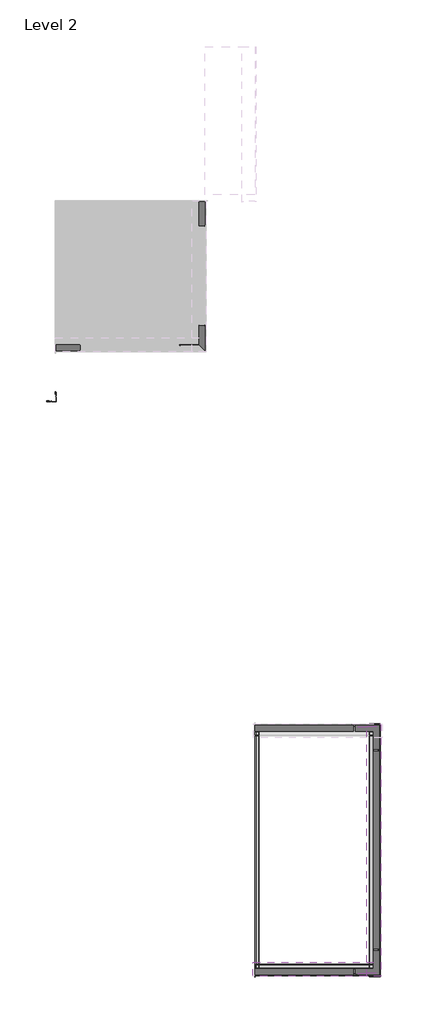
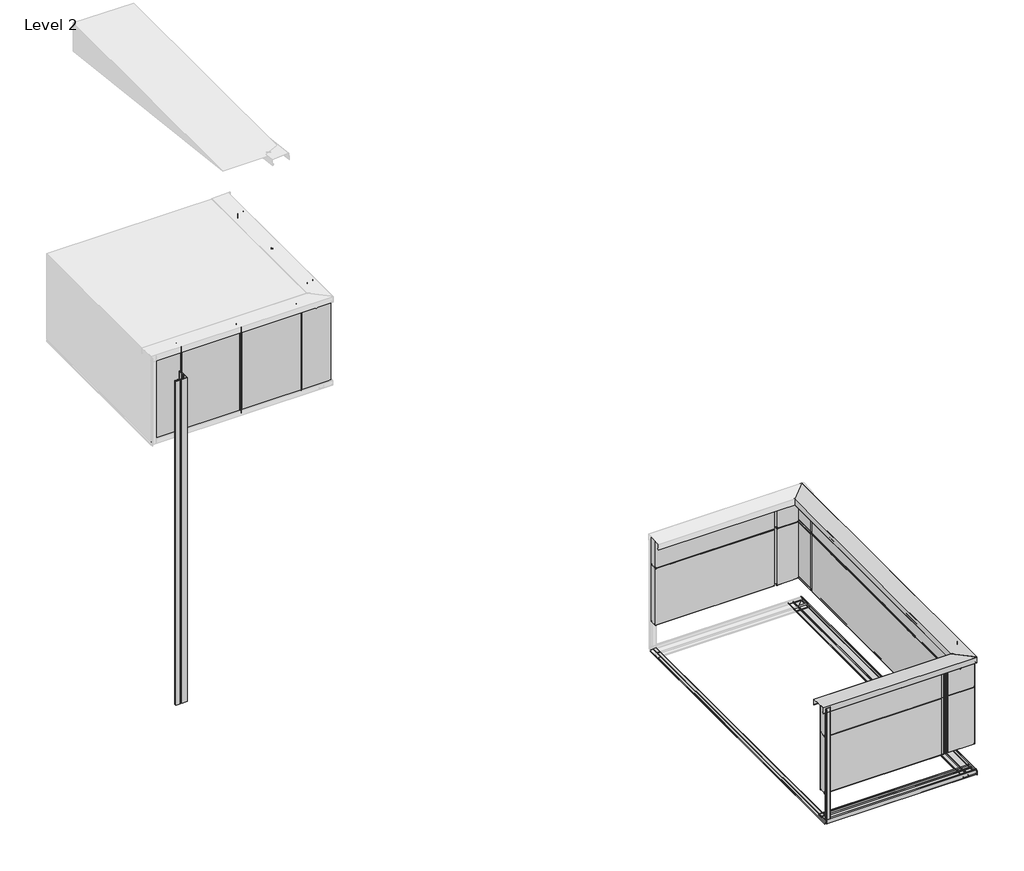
# One storey, part 1 of 2: 26 plates, 8 members, 7 beams.
"""IFC4 building model written with IfcOpenShell, lengths in millimetres."""

from ifc_helpers import new_model, si_unit, frame, origin, place, context, project, spatial, polyline, outline, extrude, faceted_brep, transform, mapped, element, save
from components import corner_with_flashing_b1a8f263, internal_corner_5e0b01c1, rectangular_mullion_bb89daf4, rectangular_mullion_bab87d59, plate_120_ral9006_ral9002_e1d061e9, plate_120_ral9006_ral9002_46c4dbfd, plate_120_ral9006_ral9002_44e4d69d, plate_120_ral9006_ral9002_99097967, plate_120_ral9006_ral9002_da1a0bd5, plate_120_ral9006_ral9002_3de5da87, plate_120_ral9006_ral9002_1c424da0, plate_120_ral9006_ral9002_272a4879, plate_120_ral9006_ral9002_0a070416, plate_120_ral9006_ral9002_82f7680e, plate_120_ral9006_ral9002_b7fea2f2, plate_120_ral9006_ral9002_61fda5af, plate_120_ral9006_ral9002_7097234f, plate_120_ral9006_ral9002_db5e3afc, plate_120_ral9006_ral9002_f0a6c20e, plate_120_ral9006_ral9002_2f89b07f, plate_120_ral9006_ral9002_a23da970, tr_empty_empty_7661b975, tr_empty_empty_d66e5eec, tr_empty_empty_b148ba64

model = new_model("IFC4")

# Units and contexts
model_context = context("Model", 3, world=origin())
ifc_project = project(units=[si_unit("LENGTHUNIT", "METRE", prefix="MILLI")], contexts=[model_context])

# Site, building, storey
site = spatial("IfcSite", under=ifc_project)
building = spatial("IfcBuilding", under=site)
storey = spatial("IfcBuildingStorey", under=building, Name="Level 2", Elevation=4000.0)

# Beams
placement = place(None, origin())
corner_with_flashing_shape = corner_with_flashing_b1a8f263(model_context)
element("IfcBeam", 1, ObjectType="TE-V-04_01 External corner with flashing i_BEAM : Corner with flashing", at=placement, inside=storey, context=model_context, shape_type="MappedRepresentation", body=[
    mapped(corner_with_flashing_shape, transform((-3994.1155057, -30.3930876, 4640.0), x_axis=(0.0, 0.0, 1.0), y_axis=(1.0, 0.0, 0.0), z_axis=(0.0, 1.0, 0.0))),
])
element("IfcBeam", 2, ObjectType="TE-H-05_02_Internal corner i_BEAM : Internal corner", at=placement, inside=storey, context=model_context, shape_type="SweptSolid", body=[
    extrude(outline(polyline([(3631.5530174, 83.0839105), (3631.3459621, 83.8566511), (3648.3462567, 88.4118663), (3648.0356738, 89.5709773), (3629.4, 84.5775636), (3629.4, 9.4844943), (3599.4, 9.4844943), (3599.4, 8.2844943), (3619.0, 8.2844943), (3619.0, 7.4844943), (3598.6, 7.4844943), (3598.6, 10.2844943), (3628.6, 10.2844943), (3628.6, 85.1914251), (3648.6013592, 90.5507732), (3649.3260526, 87.8461809), (3631.5530174, 83.0839105)])), frame((0.0, -11530.3930873, 0.0), z_axis=(0.0, 1.0, 0.0), x_axis=(0.0, 0.0, 1.0)), (0.0, 0.0, 1.0), 5020.5999994),
    extrude(outline(polyline([(3647.6, 86.346214), (3633.6146402, 82.5988482), (3633.407585, 83.3715888), (3648.4, 87.3887943), (3648.4, 36.8675042), (3647.6, 36.8675042), (3647.6, 86.346214)])), frame((0.0, -11530.3930873, 0.0), z_axis=(0.0, 1.0, 0.0), x_axis=(0.0, 0.0, 1.0)), (0.0, 0.0, 1.0), 5020.5999994),
])
internal_corner_shape = internal_corner_5e0b01c1(model_context)
element("IfcBeam", 3, ObjectType="TE-H-05_02_Internal corner i_BEAM : Internal corner", at=placement, inside=storey, context=model_context, shape_type="MappedRepresentation", body=[
    mapped(internal_corner_shape, transform((5.8844943, -11530.3930879, 4650.0), x_axis=(0.0, 0.0, 1.0), y_axis=(1.0, 0.0, 0.0), z_axis=(0.0, 1.0, 0.0))),
])
element("IfcBeam", 4, ObjectType="TE-H-03_02_Top parapet_BEAM : Top parapet", at=placement, inside=storey, context=model_context, shape_type="Brep", body=[
    faceted_brep([(2529.2844943, -11535.9982611, 5592.9605122), (2529.2844943, -11552.9930879, 5575.9656854), (2529.2844943, -11552.9930879, 5674.5784879), (2529.2844943, -11277.7930879, 5660.1558671), (2529.2844943, -11277.7930879, 5561.5011383), (2529.2844943, -11294.7879147, 5578.4959652), (2529.2844943, -11295.3536001, 5577.9302797), (2529.2844943, -11276.9930879, 5559.5697675), (2529.2844943, -11276.9930879, 5660.9150387), (2529.2844943, -11553.7930879, 5675.4215121), (2529.2844943, -11553.7930879, 5574.0343146), (2529.2844943, -11535.4325756, 5592.3948268), (-27.9077464, -11535.9982611, 5592.9605122), (-27.9077464, -11535.4325756, 5592.3948268), (-27.9077464, -11553.7930879, 5574.0343146), (-27.9077464, -11553.7930879, 5675.4215121), (-27.9077464, -11276.9930879, 5660.9150387), (-27.9077464, -11276.9930879, 5559.5697675), (-27.9077464, -11295.3536001, 5577.9302797), (-27.9077464, -11294.7879147, 5578.4959652), (-27.9077464, -11277.7930879, 5561.5011383), (-27.9077464, -11277.7930879, 5660.1558671), (-27.9077464, -11552.9930879, 5674.5784879), (-27.9077464, -11552.9930879, 5575.9656854)], [[[0, 1, 2, 3, 4, 5, 6, 7, 8, 9, 10, 11]], [[12, 13, 14, 15, 16, 17, 18, 19, 20, 21, 22, 23]], [[1, 0, 12, 23]], [[2, 1, 23, 22]], [[3, 2, 22, 21]], [[4, 3, 21, 20]], [[5, 4, 20, 19]], [[6, 5, 19, 18]], [[7, 6, 18, 17]], [[8, 7, 17, 16]], [[9, 8, 16, 15]], [[10, 9, 15, 14]], [[11, 10, 14, 13]], [[0, 11, 13, 12]]]),
    faceted_brep([(-27.9077464, -11535.9982611, 5592.9605122), (-27.9077464, -11535.4325756, 5592.3948268), (-27.9077464, -11553.7930879, 5574.0343146), (-27.9077464, -11553.7930879, 5675.4215121), (-27.9077464, -11276.9930879, 5660.9150387), (-27.9077464, -11276.9930879, 5559.5697675), (-27.9077464, -11295.3536001, 5577.9302797), (-27.9077464, -11294.7879147, 5578.4959652), (-27.9077464, -11277.7930879, 5561.5011383), (-27.9077464, -11277.7930879, 5660.1558671), (-27.9077464, -11552.9930879, 5674.5784879), (-27.9077464, -11552.9930879, 5575.9656854), (2510.9239821, -11535.4325756, 5592.3948268), (2511.4896675, -11535.9982611, 5592.9605122), (2529.2844943, -11553.7930879, 5574.0343146), (2529.2844943, -11553.7930879, 5675.4215121), (2252.4844943, -11276.9930879, 5660.9150387), (2252.4844943, -11276.9930879, 5559.5697675), (2270.8450066, -11295.3536001, 5577.9302797), (2270.2793212, -11294.7879147, 5578.4959652), (2253.2844943, -11277.7930879, 5561.5011383), (2253.2844943, -11277.7930879, 5660.1558671), (2528.4844943, -11552.9930879, 5674.5784879), (2528.4844943, -11552.9930879, 5575.9656854)], [[[0, 1, 2, 3, 4, 5, 6, 7, 8, 9, 10, 11]], [[12, 1, 0, 13]], [[14, 2, 1, 12]], [[15, 3, 2, 14]], [[16, 4, 3, 15]], [[17, 5, 4, 16]], [[18, 6, 5, 17]], [[19, 7, 6, 18]], [[20, 8, 7, 19]], [[21, 9, 8, 20]], [[22, 10, 9, 21]], [[23, 11, 10, 22]], [[13, 0, 11, 23]], [[13, 23, 22, 21, 20, 19, 18, 17, 16, 15, 14, 12]]]),
])
element("IfcBeam", 5, ObjectType="TE-H-03_02_Top parapet_BEAM : Top parapet", at=placement, inside=storey, context=model_context, shape_type="Brep", body=[
    faceted_brep([(2511.4896675, -6501.107759, 5592.9605122), (2528.4844943, -6501.107759, 5575.9656854), (2528.4844943, -6501.107759, 5674.5784879), (2253.2844943, -6501.107759, 5660.1558671), (2253.2844943, -6501.107759, 5561.5011383), (2270.2793212, -6501.107759, 5578.4959652), (2270.8450066, -6501.107759, 5577.9302797), (2252.4844943, -6501.107759, 5559.5697675), (2252.4844943, -6501.107759, 5660.9150387), (2529.2844943, -6501.107759, 5675.4215121), (2529.2844943, -6501.107759, 5574.0343146), (2510.9239821, -6501.107759, 5592.3948268), (2511.4896675, -11553.3930879, 5592.9605122), (2510.9239821, -11553.3930879, 5592.3948268), (2529.2844943, -11553.3930879, 5574.0343146), (2529.2844943, -11553.3930879, 5675.4215121), (2252.4844943, -11553.3930879, 5660.9150387), (2252.4844943, -11553.3930879, 5559.5697675), (2270.8450066, -11553.3930879, 5577.9302797), (2270.2793212, -11553.3930879, 5578.4959652), (2253.2844943, -11553.3930879, 5561.5011383), (2253.2844943, -11553.3930879, 5660.1558671), (2528.4844943, -11553.3930879, 5674.5784879), (2528.4844943, -11553.3930879, 5575.9656854)], [[[0, 1, 2, 3, 4, 5, 6, 7, 8, 9, 10, 11]], [[12, 13, 14, 15, 16, 17, 18, 19, 20, 21, 22, 23]], [[1, 0, 12, 23]], [[2, 1, 23, 22]], [[3, 2, 22, 21]], [[4, 3, 21, 20]], [[5, 4, 20, 19]], [[6, 5, 19, 18]], [[7, 6, 18, 17]], [[8, 7, 17, 16]], [[9, 8, 16, 15]], [[10, 9, 15, 14]], [[11, 10, 14, 13]], [[0, 11, 13, 12]]]),
    faceted_brep([(2511.4896675, -6501.107759, 5592.9605122), (2528.4844943, -6501.107759, 5575.9656854), (2528.4844943, -6501.107759, 5674.5784879), (2253.2844943, -6501.107759, 5660.1558671), (2253.2844943, -6501.107759, 5561.5011383), (2270.2793212, -6501.107759, 5578.4959652), (2270.8450066, -6501.107759, 5577.9302797), (2252.4844943, -6501.107759, 5559.5697675), (2252.4844943, -6501.107759, 5660.9150387), (2529.2844943, -6501.107759, 5675.4215121), (2529.2844943, -6501.107759, 5574.0343146), (2510.9239821, -6501.107759, 5592.3948268), (2511.4896675, -11535.9982611, 5592.9605122), (2528.4844943, -11552.9930879, 5575.9656854), (2528.4844943, -11552.9930879, 5674.5784879), (2253.2844943, -11277.7930879, 5660.1558671), (2253.2844943, -11277.7930879, 5561.5011383), (2270.2793212, -11294.7879147, 5578.4959652), (2270.8450066, -11295.3536001, 5577.9302797), (2252.4844943, -11276.9930879, 5559.5697675), (2252.4844943, -11276.9930879, 5660.9150387), (2528.8844943, -11553.3930879, 5675.4005489), (2529.2844943, -11553.3930879, 5675.4215121), (2529.2844943, -11553.3930879, 5574.0343146), (2528.8844943, -11553.3930879, 5574.4343146), (2510.9239821, -11535.4325756, 5592.3948268)], [[[0, 1, 2, 3, 4, 5, 6, 7, 8, 9, 10, 11]], [[1, 0, 12, 13]], [[2, 1, 13, 14]], [[3, 2, 14, 15]], [[4, 3, 15, 16]], [[5, 4, 16, 17]], [[6, 5, 17, 18]], [[7, 6, 18, 19]], [[8, 7, 19, 20]], [[9, 8, 20, 21, 22]], [[10, 9, 22, 23]], [[11, 10, 23, 24, 25]], [[0, 11, 25, 12]], [[24, 23, 22, 21]], [[24, 21, 20, 19, 18, 17, 16, 15, 14, 13, 12, 25]]]),
    faceted_brep([(2511.4896675, -6524.789012, 5592.9605122), (2511.4896675, -11535.9982611, 5592.9605122), (2528.4844943, -11552.9930879, 5575.9656854), (2528.4844943, -6507.7941851, 5575.9656854), (2510.9239821, -6525.3546974, 5592.3948268), (2510.9239821, -11535.4325756, 5592.3948268), (2528.4844943, -11552.9930879, 5674.5784879), (2528.4844943, -6507.7941851, 5674.5784879), (2253.2844943, -11277.7930879, 5660.1558671), (2253.2844943, -6782.9941851, 5660.1558671), (2253.2844943, -11277.7930879, 5561.5011383), (2253.2844943, -6782.9941851, 5561.5011383), (2270.2793212, -11294.7879147, 5578.4959652), (2270.2793212, -6765.9993583, 5578.4959652), (2270.8450066, -11295.3536001, 5577.9302797), (2270.8450066, -6765.4336729, 5577.9302797), (2252.4844943, -11276.9930879, 5559.5697675), (2252.4844943, -6783.7941851, 5559.5697675), (2252.4844943, -11276.9930879, 5660.9150387), (2252.4844943, -6783.7941851, 5660.9150387), (2528.8844943, -11553.3930879, 5675.4005489), (2529.2844943, -11553.3930879, 5675.4215121), (2529.2844943, -6506.9941851, 5675.4215121), (2528.8844943, -11553.3930879, 5574.4343146), (2529.2844943, -11553.3930879, 5574.0343146), (2529.2844943, -6506.9941851, 5574.0343146)], [[[0, 1, 2, 3]], [[4, 5, 1, 0]], [[3, 2, 6, 7]], [[7, 6, 8, 9]], [[9, 8, 10, 11]], [[11, 10, 12, 13]], [[13, 12, 14, 15]], [[15, 14, 16, 17]], [[17, 16, 18, 19]], [[19, 18, 20, 21, 22]], [[23, 24, 21, 20]], [[22, 21, 24, 25]], [[25, 24, 23, 5, 4]], [[23, 20, 18, 16, 14, 12, 10, 8, 6, 2, 1, 5]], [[0, 3, 7, 9, 11, 13, 15, 17, 19, 22, 25, 4]]]),
])
element("IfcBeam", 6, ObjectType="TE-H-12_2_ Soffit i_BEAM : soffit", at=placement, inside=storey, context=model_context, shape_type="Brep", body=[
    faceted_brep([(26.5947834, -11548.3574148, 3687.5217497), (26.5947834, -11531.3571203, 3692.0769649), (26.5947834, -11531.6677031, 3693.2360759), (26.5947834, -11550.3033769, 3688.2426622), (26.5947834, -11550.3033769, 3614.5152784), (26.5947834, -11533.3085501, 3631.5101052), (26.5947834, -11532.7428647, 3630.9444198), (26.5947834, -11551.1033769, 3612.5839075), (26.5947834, -11551.1033769, 3688.8565238), (26.5947834, -11531.1020177, 3694.2158718), (26.5947834, -11530.3773244, 3691.5112795), (26.5947834, -11548.1503596, 3686.7490091), (2526.5947834, -11548.3574148, 3687.5217497), (2526.5947834, -11548.1503596, 3686.7490091), (2526.5947834, -11530.3773244, 3691.5112795), (2526.5947834, -11531.1020177, 3694.2158718), (2526.5947834, -11551.1033769, 3688.8565238), (2526.5947834, -11551.1033769, 3612.5839075), (2526.5947834, -11532.7428647, 3630.9444198), (2526.5947834, -11533.3085501, 3631.5101052), (2526.5947834, -11550.3033769, 3614.5152784), (2526.5947834, -11550.3033769, 3688.2426622), (2526.5947834, -11531.6677031, 3693.2360759), (2526.5947834, -11531.3571203, 3692.0769649)], [[[0, 1, 2, 3, 4, 5, 6, 7, 8, 9, 10, 11]], [[12, 13, 14, 15, 16, 17, 18, 19, 20, 21, 22, 23]], [[1, 0, 12, 23]], [[2, 1, 23, 22]], [[3, 2, 22, 21]], [[4, 3, 21, 20]], [[5, 4, 20, 19]], [[6, 5, 19, 18]], [[7, 6, 18, 17]], [[8, 7, 17, 16]], [[9, 8, 16, 15]], [[10, 9, 15, 14]], [[11, 10, 14, 13]], [[0, 11, 13, 12]]]),
    faceted_brep([(26.5947834, -11548.404939, 3618.4538591), (26.5947834, -11534.1456461, 3632.713152), (26.5947834, -11404.3799606, 3632.713152), (26.5947834, -11404.3799606, 3657.713152), (26.5947834, -11401.5799606, 3657.713152), (26.5947834, -11401.5799606, 3629.713152), (26.5947834, -11327.2868914, 3629.713152), (26.5947834, -11322.2934777, 3648.3488258), (26.5947834, -11323.4525887, 3648.6594087), (26.5947834, -11328.0078039, 3631.6591141), (26.5947834, -11328.7805445, 3631.8661694), (26.5947834, -11324.0182741, 3649.6392046), (26.5947834, -11321.3136818, 3648.9145113), (26.5947834, -11326.6730298, 3628.913152), (26.5947834, -11402.3799606, 3628.913152), (26.5947834, -11402.3799606, 3656.913152), (26.5947834, -11403.5799606, 3656.913152), (26.5947834, -11403.5799606, 3631.913152), (26.5947834, -11533.8142752, 3631.913152), (26.5947834, -11547.8392535, 3617.8881737), (2526.5947834, -11548.404939, 3618.4538591), (2526.5947834, -11547.8392535, 3617.8881737), (2526.5947834, -11533.8142752, 3631.913152), (2526.5947834, -11403.5799606, 3631.913152), (2526.5947834, -11403.5799606, 3656.913152), (2526.5947834, -11402.3799606, 3656.913152), (2526.5947834, -11402.3799606, 3628.913152), (2526.5947834, -11326.6730298, 3628.913152), (2526.5947834, -11321.3136818, 3648.9145113), (2526.5947834, -11324.0182741, 3649.6392046), (2526.5947834, -11328.7805445, 3631.8661694), (2526.5947834, -11328.0078039, 3631.6591141), (2526.5947834, -11323.4525887, 3648.6594087), (2526.5947834, -11322.2934777, 3648.3488258), (2526.5947834, -11327.2868914, 3629.713152), (2526.5947834, -11401.5799606, 3629.713152), (2526.5947834, -11401.5799606, 3657.713152), (2526.5947834, -11404.3799606, 3657.713152), (2526.5947834, -11404.3799606, 3632.713152), (2526.5947834, -11534.1456461, 3632.713152)], [[[0, 1, 2, 3, 4, 5, 6, 7, 8, 9, 10, 11, 12, 13, 14, 15, 16, 17, 18, 19]], [[20, 21, 22, 23, 24, 25, 26, 27, 28, 29, 30, 31, 32, 33, 34, 35, 36, 37, 38, 39]], [[1, 0, 20, 39]], [[2, 1, 39, 38]], [[3, 2, 38, 37]], [[4, 3, 37, 36]], [[5, 4, 36, 35]], [[6, 5, 35, 34]], [[7, 6, 34, 33]], [[8, 7, 33, 32]], [[9, 8, 32, 31]], [[10, 9, 31, 30]], [[11, 10, 30, 29]], [[12, 11, 29, 28]], [[13, 12, 28, 27]], [[14, 13, 27, 26]], [[15, 14, 26, 25]], [[16, 15, 25, 24]], [[17, 16, 24, 23]], [[18, 17, 23, 22]], [[19, 18, 22, 21]], [[0, 19, 21, 20]]]),
    faceted_brep([(26.5947834, -11548.3574148, 3687.5217497), (26.5947834, -11531.3571203, 3692.0769649), (26.5947834, -11531.6677031, 3693.2360759), (26.5947834, -11550.3033769, 3688.2426622), (26.5947834, -11550.3033769, 3614.5152784), (26.5947834, -11533.3085501, 3631.5101052), (26.5947834, -11532.7428647, 3630.9444198), (26.5947834, -11551.1033769, 3612.5839075), (26.5947834, -11551.1033769, 3688.8565238), (26.5947834, -11531.1020177, 3694.2158718), (26.5947834, -11530.3773244, 3691.5112795), (26.5947834, -11548.1503596, 3686.7490091), (2523.8488213, -11548.3574148, 3687.5217497), (2506.8485268, -11531.3571203, 3692.0769649), (2507.1591096, -11531.6677031, 3693.2360759), (2525.7947834, -11550.3033769, 3688.2426622), (2525.7947834, -11550.3033769, 3614.5152784), (2508.7999566, -11533.3085501, 3631.5101052), (2508.2342712, -11532.7428647, 3630.9444198), (2526.5947834, -11551.1033769, 3612.5839075), (2526.5947834, -11551.1033769, 3688.8565238), (2506.5934242, -11531.1020177, 3694.2158718), (2505.8687309, -11530.3773244, 3691.5112795), (2523.6417661, -11548.1503596, 3686.7490091)], [[[0, 1, 2, 3, 4, 5, 6, 7, 8, 9, 10, 11]], [[1, 0, 12, 13]], [[2, 1, 13, 14]], [[3, 2, 14, 15]], [[4, 3, 15, 16]], [[5, 4, 16, 17]], [[6, 5, 17, 18]], [[7, 6, 18, 19]], [[8, 7, 19, 20]], [[9, 8, 20, 21]], [[10, 9, 21, 22]], [[11, 10, 22, 23]], [[0, 11, 23, 12]], [[13, 12, 23, 22, 21, 20, 19, 18, 17, 16, 15, 14]]]),
    faceted_brep([(26.5947834, -11548.404939, 3618.4538591), (26.5947834, -11534.1456461, 3632.713152), (26.5947834, -11404.3799606, 3632.713152), (26.5947834, -11404.3799606, 3657.713152), (26.5947834, -11401.5799606, 3657.713152), (26.5947834, -11401.5799606, 3629.713152), (26.5947834, -11327.2868914, 3629.713152), (26.5947834, -11322.2934777, 3648.3488258), (26.5947834, -11323.4525887, 3648.6594087), (26.5947834, -11328.0078039, 3631.6591141), (26.5947834, -11328.7805445, 3631.8661694), (26.5947834, -11324.0182741, 3649.6392046), (26.5947834, -11321.3136818, 3648.9145113), (26.5947834, -11326.6730298, 3628.913152), (26.5947834, -11402.3799606, 3628.913152), (26.5947834, -11402.3799606, 3656.913152), (26.5947834, -11403.5799606, 3656.913152), (26.5947834, -11403.5799606, 3631.913152), (26.5947834, -11533.8142752, 3631.913152), (26.5947834, -11547.8392535, 3617.8881737), (2523.8963454, -11548.404939, 3618.4538591), (2509.6370525, -11534.1456461, 3632.713152), (2379.8713671, -11404.3799606, 3632.713152), (2379.8713671, -11404.3799606, 3657.713152), (2377.0713671, -11401.5799606, 3657.713152), (2377.0713671, -11401.5799606, 3629.713152), (2302.7782979, -11327.2868914, 3629.713152), (2297.7848842, -11322.2934777, 3648.3488258), (2298.9439951, -11323.4525887, 3648.6594087), (2303.4992103, -11328.0078039, 3631.6591141), (2304.271951, -11328.7805445, 3631.8661694), (2299.5096806, -11324.0182741, 3649.6392046), (2296.8050883, -11321.3136818, 3648.9145113), (2302.1644363, -11326.6730298, 3628.913152), (2377.8713671, -11402.3799606, 3628.913152), (2377.8713671, -11402.3799606, 3656.913152), (2379.0713671, -11403.5799606, 3656.913152), (2379.0713671, -11403.5799606, 3631.913152), (2509.3056817, -11533.8142752, 3631.913152), (2523.33066, -11547.8392535, 3617.8881737)], [[[0, 1, 2, 3, 4, 5, 6, 7, 8, 9, 10, 11, 12, 13, 14, 15, 16, 17, 18, 19]], [[1, 0, 20, 21]], [[2, 1, 21, 22]], [[3, 2, 22, 23]], [[4, 3, 23, 24]], [[5, 4, 24, 25]], [[6, 5, 25, 26]], [[7, 6, 26, 27]], [[8, 7, 27, 28]], [[9, 8, 28, 29]], [[10, 9, 29, 30]], [[11, 10, 30, 31]], [[12, 11, 31, 32]], [[13, 12, 32, 33]], [[14, 13, 33, 34]], [[15, 14, 34, 35]], [[16, 15, 35, 36]], [[17, 16, 36, 37]], [[18, 17, 37, 38]], [[19, 18, 38, 39]], [[0, 19, 39, 20]], [[21, 20, 39, 38, 37, 36, 35, 34, 33, 32, 31, 30, 29, 28, 27, 26, 25, 24, 23, 22]]]),
])
element("IfcBeam", 7, ObjectType="TE-H-12_2_ Soffit i_BEAM : soffit", at=placement, inside=storey, context=model_context, shape_type="Brep", body=[
    faceted_brep([(2523.8488213, -11571.813666, 3687.5217497), (2506.8485268, -11571.813666, 3692.0769649), (2507.1591096, -11571.813666, 3693.2360759), (2525.7947834, -11571.813666, 3688.2426622), (2525.7947834, -11571.813666, 3614.5152784), (2508.7999566, -11571.813666, 3631.5101052), (2508.2342712, -11571.813666, 3630.9444198), (2526.5947834, -11571.813666, 3612.5839075), (2526.5947834, -11571.813666, 3688.8565238), (2506.5934242, -11571.813666, 3694.2158718), (2505.8687309, -11571.813666, 3691.5112795), (2523.6417661, -11571.813666, 3686.7490091), (2523.8488213, -6506.9930879, 3687.5217497), (2523.6417661, -6506.9930879, 3686.7490091), (2505.8687309, -6506.9930879, 3691.5112795), (2506.5934242, -6506.9930879, 3694.2158718), (2526.5947834, -6506.9930879, 3688.8565238), (2526.5947834, -6506.9930879, 3612.5839075), (2508.2342712, -6506.9930879, 3630.9444198), (2508.7999566, -6506.9930879, 3631.5101052), (2525.7947834, -6506.9930879, 3614.5152784), (2525.7947834, -6506.9930879, 3688.2426622), (2507.1591096, -6506.9930879, 3693.2360759), (2506.8485268, -6506.9930879, 3692.0769649)], [[[0, 1, 2, 3, 4, 5, 6, 7, 8, 9, 10, 11]], [[12, 13, 14, 15, 16, 17, 18, 19, 20, 21, 22, 23]], [[1, 0, 12, 23]], [[2, 1, 23, 22]], [[3, 2, 22, 21]], [[4, 3, 21, 20]], [[5, 4, 20, 19]], [[6, 5, 19, 18]], [[7, 6, 18, 17]], [[8, 7, 17, 16]], [[9, 8, 16, 15]], [[10, 9, 15, 14]], [[11, 10, 14, 13]], [[0, 11, 13, 12]]]),
    faceted_brep([(2523.8963454, -11571.813666, 3618.4538591), (2509.6370525, -11571.813666, 3632.713152), (2379.8713671, -11571.813666, 3632.713152), (2379.8713671, -11571.813666, 3657.713152), (2377.0713671, -11571.813666, 3657.713152), (2377.0713671, -11571.813666, 3629.713152), (2302.7782979, -11571.813666, 3629.713152), (2297.7848842, -11571.813666, 3648.3488258), (2298.9439951, -11571.813666, 3648.6594087), (2303.4992103, -11571.813666, 3631.6591141), (2304.271951, -11571.813666, 3631.8661694), (2299.5096806, -11571.813666, 3649.6392046), (2296.8050883, -11571.813666, 3648.9145113), (2302.1644363, -11571.813666, 3628.913152), (2377.8713671, -11571.813666, 3628.913152), (2377.8713671, -11571.813666, 3656.913152), (2379.0713671, -11571.813666, 3656.913152), (2379.0713671, -11571.813666, 3631.913152), (2509.3056817, -11571.813666, 3631.913152), (2523.33066, -11571.813666, 3617.8881737), (2523.8963454, -6506.9930879, 3618.4538591), (2523.33066, -6506.9930879, 3617.8881737), (2509.3056817, -6506.9930879, 3631.913152), (2379.0713671, -6506.9930879, 3631.913152), (2379.0713671, -6506.9930879, 3656.913152), (2377.8713671, -6506.9930879, 3656.913152), (2377.8713671, -6506.9930879, 3628.913152), (2302.1644363, -6506.9930879, 3628.913152), (2296.8050883, -6506.9930879, 3648.9145113), (2299.5096806, -6506.9930879, 3649.6392046), (2304.271951, -6506.9930879, 3631.8661694), (2303.4992103, -6506.9930879, 3631.6591141), (2298.9439951, -6506.9930879, 3648.6594087), (2297.7848842, -6506.9930879, 3648.3488258), (2302.7782979, -6506.9930879, 3629.713152), (2377.0713671, -6506.9930879, 3629.713152), (2377.0713671, -6506.9930879, 3657.713152), (2379.8713671, -6506.9930879, 3657.713152), (2379.8713671, -6506.9930879, 3632.713152), (2509.6370525, -6506.9930879, 3632.713152)], [[[0, 1, 2, 3, 4, 5, 6, 7, 8, 9, 10, 11, 12, 13, 14, 15, 16, 17, 18, 19]], [[20, 21, 22, 23, 24, 25, 26, 27, 28, 29, 30, 31, 32, 33, 34, 35, 36, 37, 38, 39]], [[1, 0, 20, 39]], [[2, 1, 39, 38]], [[3, 2, 38, 37]], [[4, 3, 37, 36]], [[5, 4, 36, 35]], [[6, 5, 35, 34]], [[7, 6, 34, 33]], [[8, 7, 33, 32]], [[9, 8, 32, 31]], [[10, 9, 31, 30]], [[11, 10, 30, 29]], [[12, 11, 29, 28]], [[13, 12, 28, 27]], [[14, 13, 27, 26]], [[15, 14, 26, 25]], [[16, 15, 25, 24]], [[17, 16, 24, 23]], [[18, 17, 23, 22]], [[19, 18, 22, 21]], [[0, 19, 21, 20]]]),
    faceted_brep([(2523.8488213, -6506.9930879, 3687.5217497), (2523.6417661, -6506.9930879, 3686.7490091), (2505.8687309, -6506.9930879, 3691.5112795), (2506.5934242, -6506.9930879, 3694.2158718), (2526.5947834, -6506.9930879, 3688.8565238), (2526.5947834, -6506.9930879, 3612.5839075), (2508.2342712, -6506.9930879, 3630.9444198), (2508.7999566, -6506.9930879, 3631.5101052), (2525.7947834, -6506.9930879, 3614.5152784), (2525.7947834, -6506.9930879, 3688.2426622), (2507.1591096, -6506.9930879, 3693.2360759), (2506.8485268, -6506.9930879, 3692.0769649), (2523.6417661, -11548.1503596, 3686.7490091), (2523.8488213, -11548.3574148, 3687.5217497), (2505.8687309, -11530.3773244, 3691.5112795), (2506.5934242, -11531.1020177, 3694.2158718), (2526.5947834, -11551.1033769, 3688.8565238), (2526.5947834, -11551.1033769, 3612.5839075), (2508.2342712, -11532.7428647, 3630.9444198), (2508.7999566, -11533.3085501, 3631.5101052), (2525.7947834, -11550.3033769, 3614.5152784), (2525.7947834, -11550.3033769, 3688.2426622), (2507.1591096, -11531.6677031, 3693.2360759), (2506.8485268, -11531.3571203, 3692.0769649)], [[[0, 1, 2, 3, 4, 5, 6, 7, 8, 9, 10, 11]], [[12, 1, 0, 13]], [[14, 2, 1, 12]], [[15, 3, 2, 14]], [[16, 4, 3, 15]], [[17, 5, 4, 16]], [[18, 6, 5, 17]], [[19, 7, 6, 18]], [[20, 8, 7, 19]], [[21, 9, 8, 20]], [[22, 10, 9, 21]], [[23, 11, 10, 22]], [[13, 0, 11, 23]], [[13, 23, 22, 21, 20, 19, 18, 17, 16, 15, 14, 12]]]),
    faceted_brep([(2523.8963454, -6506.9930879, 3618.4538591), (2523.33066, -6506.9930879, 3617.8881737), (2509.3056817, -6506.9930879, 3631.913152), (2379.0713671, -6506.9930879, 3631.913152), (2379.0713671, -6506.9930879, 3656.913152), (2377.8713671, -6506.9930879, 3656.913152), (2377.8713671, -6506.9930879, 3628.913152), (2302.1644363, -6506.9930879, 3628.913152), (2296.8050883, -6506.9930879, 3648.9145113), (2299.5096806, -6506.9930879, 3649.6392046), (2304.271951, -6506.9930879, 3631.8661694), (2303.4992103, -6506.9930879, 3631.6591141), (2298.9439951, -6506.9930879, 3648.6594087), (2297.7848842, -6506.9930879, 3648.3488258), (2302.7782979, -6506.9930879, 3629.713152), (2377.0713671, -6506.9930879, 3629.713152), (2377.0713671, -6506.9930879, 3657.713152), (2379.8713671, -6506.9930879, 3657.713152), (2379.8713671, -6506.9930879, 3632.713152), (2509.6370525, -6506.9930879, 3632.713152), (2523.33066, -11547.8392535, 3617.8881737), (2523.8963454, -11548.404939, 3618.4538591), (2509.3056817, -11533.8142752, 3631.913152), (2379.0713671, -11403.5799606, 3631.913152), (2379.0713671, -11403.5799606, 3656.913152), (2377.8713671, -11402.3799606, 3656.913152), (2377.8713671, -11402.3799606, 3628.913152), (2302.1644363, -11326.6730298, 3628.913152), (2296.8050883, -11321.3136818, 3648.9145113), (2299.5096806, -11324.0182741, 3649.6392046), (2304.271951, -11328.7805445, 3631.8661694), (2303.4992103, -11328.0078039, 3631.6591141), (2298.9439951, -11323.4525887, 3648.6594087), (2297.7848842, -11322.2934777, 3648.3488258), (2302.7782979, -11327.2868914, 3629.713152), (2377.0713671, -11401.5799606, 3629.713152), (2377.0713671, -11401.5799606, 3657.713152), (2379.8713671, -11404.3799606, 3657.713152), (2379.8713671, -11404.3799606, 3632.713152), (2509.6370525, -11534.1456461, 3632.713152)], [[[0, 1, 2, 3, 4, 5, 6, 7, 8, 9, 10, 11, 12, 13, 14, 15, 16, 17, 18, 19]], [[20, 1, 0, 21]], [[22, 2, 1, 20]], [[23, 3, 2, 22]], [[24, 4, 3, 23]], [[25, 5, 4, 24]], [[26, 6, 5, 25]], [[27, 7, 6, 26]], [[28, 8, 7, 27]], [[29, 9, 8, 28]], [[30, 10, 9, 29]], [[31, 11, 10, 30]], [[32, 12, 11, 31]], [[33, 13, 12, 32]], [[34, 14, 13, 33]], [[35, 15, 14, 34]], [[36, 16, 15, 35]], [[37, 17, 16, 36]], [[38, 18, 17, 37]], [[39, 19, 18, 38]], [[21, 0, 19, 39]], [[21, 39, 38, 37, 36, 35, 34, 33, 32, 31, 30, 29, 28, 27, 26, 25, 24, 23, 22, 20]]]),
    faceted_brep([(2523.6417661, -11548.1503596, 3686.7490091), (2523.6417661, -6512.6369134, 3686.7490091), (2523.8488213, -6512.4298582, 3687.5217497), (2523.8488213, -11548.3574148, 3687.5217497), (2505.8687309, -11530.3773244, 3691.5112795), (2505.8687309, -6530.4099486, 3691.5112795), (2506.5934242, -11531.1020177, 3694.2158718), (2506.5934242, -6529.6852553, 3694.2158718), (2526.5947834, -11551.1033769, 3688.8565238), (2526.5947834, -6509.6838961, 3688.8565238), (2526.5947834, -11551.1033769, 3612.5839075), (2526.5947834, -6509.6838961, 3612.5839075), (2508.2342712, -11532.7428647, 3630.9444198), (2508.2342712, -6528.0444083, 3630.9444198), (2508.7999566, -11533.3085501, 3631.5101052), (2508.7999566, -6527.4787229, 3631.5101052), (2525.7947834, -11550.3033769, 3614.5152784), (2525.7947834, -6510.4838961, 3614.5152784), (2525.7947834, -11550.3033769, 3688.2426622), (2525.7947834, -6510.4838961, 3688.2426622), (2507.1591096, -11531.6677031, 3693.2360759), (2507.1591096, -6529.1195699, 3693.2360759), (2506.8485268, -11531.3571203, 3692.0769649), (2506.8485268, -6529.4301527, 3692.0769649)], [[[0, 1, 2, 3]], [[4, 5, 1, 0]], [[6, 7, 5, 4]], [[8, 9, 7, 6]], [[10, 11, 9, 8]], [[12, 13, 11, 10]], [[14, 15, 13, 12]], [[16, 17, 15, 14]], [[18, 19, 17, 16]], [[20, 21, 19, 18]], [[22, 23, 21, 20]], [[3, 2, 23, 22]], [[3, 22, 20, 18, 16, 14, 12, 10, 8, 6, 4, 0]], [[2, 1, 5, 7, 9, 11, 13, 15, 17, 19, 21, 23]]]),
    faceted_brep([(2523.33066, -11547.8392535, 3617.8881737), (2523.33066, -6512.9480195, 3617.8881737), (2523.8963454, -6512.382334, 3618.4538591), (2523.8963454, -11548.404939, 3618.4538591), (2509.3056817, -11533.8142752, 3631.913152), (2509.3056817, -6526.9729978, 3631.913152), (2379.0713671, -11403.5799606, 3631.913152), (2379.0713671, -6657.2073124, 3631.913152), (2509.6370525, -11534.1456461, 3632.713152), (2509.6370525, -6526.641627, 3632.713152), (2379.8713671, -6656.4073124, 3632.713152), (2379.8713671, -11404.3799606, 3632.713152), (2379.0713671, -11403.5799606, 3656.913152), (2379.0713671, -6657.2073124, 3656.913152), (2377.8713671, -11402.3799606, 3656.913152), (2377.8713671, -6658.4073124, 3656.913152), (2377.8713671, -11402.3799606, 3628.913152), (2377.8713671, -6658.4073124, 3628.913152), (2302.1644363, -11326.6730298, 3628.913152), (2302.1644363, -6734.1142432, 3628.913152), (2296.8050883, -11321.3136818, 3648.9145113), (2296.8050883, -6739.4735912, 3648.9145113), (2299.5096806, -11324.0182741, 3649.6392046), (2299.5096806, -6736.7689989, 3649.6392046), (2304.271951, -11328.7805445, 3631.8661694), (2304.271951, -6732.0067285, 3631.8661694), (2303.4992103, -11328.0078039, 3631.6591141), (2303.4992103, -6732.7794691, 3631.6591141), (2298.9439951, -11323.4525887, 3648.6594087), (2298.9439951, -6737.3346843, 3648.6594087), (2297.7848842, -11322.2934777, 3648.3488258), (2297.7848842, -6738.4937953, 3648.3488258), (2302.7782979, -11327.2868914, 3629.713152), (2302.7782979, -6733.5003816, 3629.713152), (2377.0713671, -11401.5799606, 3629.713152), (2377.0713671, -6659.2073124, 3629.713152), (2377.0713671, -11401.5799606, 3657.713152), (2377.0713671, -6659.2073124, 3657.713152), (2379.8713671, -11404.3799606, 3657.713152), (2379.8713671, -6656.4073124, 3657.713152)], [[[0, 1, 2, 3]], [[4, 5, 1, 0]], [[6, 7, 5, 4]], [[8, 9, 10, 11]], [[3, 2, 9, 8]], [[12, 13, 7, 6]], [[14, 15, 13, 12]], [[16, 17, 15, 14]], [[18, 19, 17, 16]], [[20, 21, 19, 18]], [[22, 23, 21, 20]], [[24, 25, 23, 22]], [[26, 27, 25, 24]], [[28, 29, 27, 26]], [[30, 31, 29, 28]], [[32, 33, 31, 30]], [[34, 35, 33, 32]], [[36, 37, 35, 34]], [[38, 39, 37, 36]], [[11, 10, 39, 38]], [[3, 8, 11, 38, 36, 34, 32, 30, 28, 26, 24, 22, 20, 18, 16, 14, 12, 6, 4, 0]], [[2, 1, 5, 7, 13, 15, 17, 19, 21, 23, 25, 27, 29, 31, 33, 35, 37, 39, 10, 9]]]),
])

# Members
rectangular_mullion_shape = rectangular_mullion_bb89daf4(model_context)
element("IfcMember", 8, ObjectType="Rectangular Mullion : TE-H-01_03_Joint HF102", at=placement, inside=storey, context=model_context, shape_type="MappedRepresentation", body=[
    mapped(rectangular_mullion_shape, transform((2005.8844943, -11530.3930879, 5650.0), x_axis=(-1.0, 0.0, 0.0), y_axis=(0.0, -1.0, 0.0), z_axis=(0.0, 0.0, 1.0))),
])
element("IfcMember", 9, ObjectType="Rectangular Mullion : TE-H-01_03_Joint HF102", at=placement, inside=storey, context=model_context, shape_type="MappedRepresentation", body=[
    mapped(rectangular_mullion_shape, transform((2505.8844943, -11030.3930879, 5650.0), x_axis=(0.0, -1.0, 0.0), y_axis=(1.0, 0.0, 0.0), z_axis=(0.0, 0.0, 1.0))),
])
element("IfcMember", 10, ObjectType="Rectangular Mullion : TE-H-01_03_Joint HF102", at=placement, inside=storey, context=model_context, shape_type="MappedRepresentation", body=[
    mapped(rectangular_mullion_shape, transform((2505.8844943, -7030.3930879, 5650.0), x_axis=(0.0, -1.0, 0.0), y_axis=(1.0, 0.0, 0.0), z_axis=(0.0, 0.0, 1.0))),
])
element("IfcMember", 11, ObjectType="Rectangular Mullion : TE-H-01_03_Joint HF102", at=placement, inside=storey, context=model_context, shape_type="MappedRepresentation", body=[
    mapped(rectangular_mullion_shape, transform((2005.8844943, -6530.3930879, 5650.0), x_axis=(1.0, 0.0, 0.0), y_axis=(0.0, 1.0, 0.0), z_axis=(0.0, 0.0, 1.0))),
])
rectangular_mullion_2_shape = rectangular_mullion_bab87d59(model_context)
element("IfcMember", 12, ObjectType="Rectangular Mullion : TE-H-01_03_Joint HF102", at=placement, inside=storey, context=model_context, shape_type="MappedRepresentation", body=[
    mapped(rectangular_mullion_2_shape, transform((2005.8844943, -6530.3930879, 5150.0), x_axis=(1.0, 0.0, 0.0), y_axis=(0.0, 1.0, 0.0), z_axis=(0.0, 0.0, 1.0))),
])
element("IfcMember", 13, ObjectType="Rectangular Mullion : TE-H-01_03_Joint HF102", at=placement, inside=storey, context=model_context, shape_type="MappedRepresentation", body=[
    mapped(rectangular_mullion_2_shape, transform((2505.8844943, -7030.3930879, 5150.0), x_axis=(0.0, -1.0, 0.0), y_axis=(1.0, 0.0, 0.0), z_axis=(0.0, 0.0, 1.0))),
])
element("IfcMember", 14, ObjectType="Rectangular Mullion : TE-H-01_03_Joint HF102", at=placement, inside=storey, context=model_context, shape_type="MappedRepresentation", body=[
    mapped(rectangular_mullion_2_shape, transform((2505.8844943, -11030.3930879, 5150.0), x_axis=(0.0, -1.0, 0.0), y_axis=(1.0, 0.0, 0.0), z_axis=(0.0, 0.0, 1.0))),
])
element("IfcMember", 15, ObjectType="Rectangular Mullion : TE-H-01_03_Joint HF102", at=placement, inside=storey, context=model_context, shape_type="MappedRepresentation", body=[
    mapped(rectangular_mullion_2_shape, transform((2005.8844943, -11530.3930879, 5150.0), x_axis=(-1.0, 0.0, 0.0), y_axis=(0.0, -1.0, 0.0), z_axis=(0.0, 0.0, 1.0))),
])

# Plates
plate_120_ral9006_ral9002_shape = plate_120_ral9006_ral9002_e1d061e9(model_context)
element("IfcPlate", 16, ObjectType="TR_C_H_FTV_Panel : 120/RAL9006/RAL9002", at=placement, inside=storey, context=model_context, shape_type="MappedRepresentation", body=[
    mapped(plate_120_ral9006_ral9002_shape, transform((-1494.1155057, 2469.6069121, 4150.0), x_axis=(0.0, 1.0, 0.0), y_axis=(0.0, 0.0, -1.0), z_axis=(-1.0, 0.0, 0.0))),
])
element("IfcPlate", 17, ObjectType="TR_C_H_FTV_Panel : 120/RAL9006/RAL9002", at=placement, inside=storey, context=model_context, shape_type="MappedRepresentation", body=[
    mapped(plate_120_ral9006_ral9002_shape, transform((-2494.1155057, 2469.6069121, 4150.0), x_axis=(0.0, 1.0, 0.0), y_axis=(0.0, 0.0, -1.0), z_axis=(-1.0, 0.0, 0.0))),
])
plate_120_ral9006_ral9002_2_shape = plate_120_ral9006_ral9002_46c4dbfd(model_context)
element("IfcPlate", 18, ObjectType="TR_C_H_FTV_Panel : 120/RAL9006/RAL9002", at=placement, inside=storey, context=model_context, shape_type="MappedRepresentation", body=[
    mapped(plate_120_ral9006_ral9002_2_shape, transform((2505.8844943, -9030.3930879, 4150.0), x_axis=(0.0, -1.0, 0.0), y_axis=(1.0, 0.0, 0.0), z_axis=(0.0, 0.0, 1.0))),
])
plate_120_ral9006_ral9002_3_shape = plate_120_ral9006_ral9002_44e4d69d(model_context)
element("IfcPlate", 19, ObjectType="TR_C_H_FTV_Panel : 120/RAL9006/RAL9002", at=placement, inside=storey, context=model_context, shape_type="MappedRepresentation", body=[
    mapped(plate_120_ral9006_ral9002_3_shape, transform((995.8844943, -6530.3930879, 4150.0), x_axis=(1.0, 0.0, 0.0), y_axis=(0.0, 1.0, 0.0), z_axis=(0.0, 0.0, 1.0))),
])
element("IfcPlate", 20, ObjectType="TR_C_H_FTV_Panel : 120/RAL9006/RAL9002", at=placement, inside=storey, context=model_context, shape_type="MappedRepresentation", body=[
    mapped(plate_120_ral9006_ral9002_3_shape, transform((995.8844943, -11530.3930879, 4150.0), x_axis=(-1.0, 0.0, 0.0), y_axis=(0.0, -1.0, 0.0), z_axis=(0.0, 0.0, 1.0))),
])
plate_120_ral9006_ral9002_4_shape = plate_120_ral9006_ral9002_99097967(model_context)
element("IfcPlate", 21, ObjectType="TR_C_H_FTV_Panel_cut_GROOVE : 120/RAL9006/RAL9002", at=placement, inside=storey, context=model_context, shape_type="MappedRepresentation", body=[
    mapped(plate_120_ral9006_ral9002_4_shape, transform((-3494.1155057, 2469.6069121, 4150.0), x_axis=(0.0, 1.0, 0.0), y_axis=(0.0, 0.0, -1.0), z_axis=(-1.0, 0.0, 0.0))),
])
plate_120_ral9006_ral9002_5_shape = plate_120_ral9006_ral9002_da1a0bd5(model_context)
element("IfcPlate", 22, ObjectType="TR_C_H_FTV_Panel_cut_GROOVE : 120/RAL9006/RAL9002", at=placement, inside=storey, context=model_context, shape_type="MappedRepresentation", body=[
    mapped(plate_120_ral9006_ral9002_5_shape, transform((995.8844943, -6530.3930879, 5150.0), x_axis=(1.0, 0.0, 0.0), y_axis=(0.0, 1.0, 0.0), z_axis=(0.0, 0.0, 1.0))),
])
element("IfcPlate", 23, ObjectType="TR_C_H_FTV_Panel_cut_GROOVE : 120/RAL9006/RAL9002", at=placement, inside=storey, context=model_context, shape_type="MappedRepresentation", body=[
    mapped(plate_120_ral9006_ral9002_5_shape, transform((995.8844943, -11530.3930879, 5150.0), x_axis=(-1.0, 0.0, 0.0), y_axis=(0.0, -1.0, 0.0), z_axis=(0.0, 0.0, 1.0))),
])
plate_120_ral9006_ral9002_6_shape = plate_120_ral9006_ral9002_3de5da87(model_context)
element("IfcPlate", 24, ObjectType="TR_C_H_FTV_Panel_cut_GROOVE : 120/RAL9006/RAL9002", at=placement, inside=storey, context=model_context, shape_type="MappedRepresentation", body=[
    mapped(plate_120_ral9006_ral9002_6_shape, transform((2505.8844943, -9030.3930879, 5150.0), x_axis=(0.0, -1.0, 0.0), y_axis=(1.0, 0.0, 0.0), z_axis=(0.0, 0.0, 1.0))),
])
plate_120_ral9006_ral9002_7_shape = plate_120_ral9006_ral9002_1c424da0(model_context)
element("IfcPlate", 25, ObjectType="TR_C_H_FTV_Panel_cut_TONGUE : 120/RAL9006/RAL9002", at=placement, inside=storey, context=model_context, shape_type="MappedRepresentation", body=[
    mapped(plate_120_ral9006_ral9002_7_shape, transform((-994.1155057, 2469.6069121, 4150.0), x_axis=(0.0, 1.0, 0.0), y_axis=(0.0, 0.0, -1.0), z_axis=(-1.0, 0.0, 0.0))),
])
plate_120_ral9006_ral9002_8_shape = plate_120_ral9006_ral9002_272a4879(model_context)
element("IfcPlate", 26, ObjectType="TR_C_V_FTV_Corner_Long_B : 120/RAL9006/RAL9002", at=placement, inside=storey, context=model_context, shape_type="MappedRepresentation", body=[
    mapped(plate_120_ral9006_ral9002_8_shape, transform((-1244.1155058, 969.6069121, 4150.0), x_axis=(-1.0, 0.0, 0.0), y_axis=(0.0, -1.0, 0.0), z_axis=(0.0, 0.0, 1.0))),
])
plate_120_ral9006_ral9002_9_shape = plate_120_ral9006_ral9002_0a070416(model_context)
element("IfcPlate", 27, ObjectType="TR_C_V_FTV_Panel : 120/RAL9006/RAL9002", at=placement, inside=storey, context=model_context, shape_type="MappedRepresentation", body=[
    mapped(plate_120_ral9006_ral9002_9_shape, transform((-1994.115506, 969.6069121, 4150.0), x_axis=(-1.0, 0.0, 0.0), y_axis=(0.0, -1.0, 0.0), z_axis=(0.0, 0.0, 1.0))),
])
element("IfcPlate", 28, ObjectType="TR_C_V_FTV_Panel : 120/RAL9006/RAL9002", at=placement, inside=storey, context=model_context, shape_type="MappedRepresentation", body=[
    mapped(plate_120_ral9006_ral9002_9_shape, transform((-2994.115506, 969.6069121, 4150.0), x_axis=(-1.0, 0.0, 0.0), y_axis=(0.0, -1.0, 0.0), z_axis=(0.0, 0.0, 1.0))),
])
element("IfcPlate", 29, ObjectType="TR_C_V_FTV_Panel : 120/RAL9006/RAL9002", at=placement, inside=storey, context=model_context, shape_type="MappedRepresentation", body=[
    mapped(plate_120_ral9006_ral9002_9_shape, transform((-994.1155057, 2969.6069118, 4150.0), x_axis=(0.0, -1.0, 0.0), y_axis=(1.0, 0.0, 0.0), z_axis=(0.0, 0.0, 1.0))),
])
element("IfcPlate", 30, ObjectType="TR_C_V_FTV_Panel : 120/RAL9006/RAL9002", at=placement, inside=storey, context=model_context, shape_type="MappedRepresentation", body=[
    mapped(plate_120_ral9006_ral9002_9_shape, transform((-994.1155057, 1969.6069118, 4150.0), x_axis=(0.0, -1.0, 0.0), y_axis=(1.0, 0.0, 0.0), z_axis=(0.0, 0.0, 1.0))),
])
plate_120_ral9006_ral9002_10_shape = plate_120_ral9006_ral9002_82f7680e(model_context)
element("IfcPlate", 31, ObjectType="TR_C_V_FTV_Panel_cut_GROOVE : 120/RAL9006/RAL9002", at=placement, inside=storey, context=model_context, shape_type="MappedRepresentation", body=[
    mapped(plate_120_ral9006_ral9002_10_shape, transform((-3744.1155058, 969.6069121, 4150.0), x_axis=(-1.0, 0.0, 0.0), y_axis=(0.0, -1.0, 0.0), z_axis=(0.0, 0.0, 1.0))),
])
plate_120_ral9006_ral9002_11_shape = plate_120_ral9006_ral9002_b7fea2f2(model_context)
element("IfcPlate", 32, ObjectType="TR_C_V_FTV_Panel_cut_TONGUE : 120/RAL9006/RAL9002", at=placement, inside=storey, context=model_context, shape_type="MappedRepresentation", body=[
    mapped(plate_120_ral9006_ral9002_11_shape, transform((-994.1155057, 3719.606912, 4150.0), x_axis=(0.0, -1.0, 0.0), y_axis=(1.0, 0.0, 0.0), z_axis=(0.0, 0.0, 1.0))),
])
plate_120_ral9006_ral9002_12_shape = plate_120_ral9006_ral9002_61fda5af(model_context)
plate_120_ral9006_ral9002_13_shape = plate_120_ral9006_ral9002_7097234f(model_context)
element("IfcPlate", 33, ObjectType="TR_C_H_FTV_Corner_Tr_A : 120/RAL9006/RAL9002", at=placement, inside=storey, context=model_context, shape_type="MappedRepresentation", body=[
    mapped(plate_120_ral9006_ral9002_12_shape, transform((2505.8844943, -11290.3930879, 4150.0), x_axis=(0.0, -1.0, 0.0), y_axis=(1.0, 0.0, 0.0), z_axis=(0.0, 0.0, 1.0))),
    mapped(plate_120_ral9006_ral9002_13_shape, transform((2505.8844943, -11290.3930879, 4150.0), x_axis=(0.0, -1.0, 0.0), y_axis=(1.0, 0.0, 0.0), z_axis=(0.0, 0.0, 1.0))),
])
plate_120_ral9006_ral9002_14_shape = plate_120_ral9006_ral9002_db5e3afc(model_context)
plate_120_ral9006_ral9002_15_shape = plate_120_ral9006_ral9002_f0a6c20e(model_context)
element("IfcPlate", 34, ObjectType="TR_C_H_FTV_Corner_Tr_B : 120/RAL9006/RAL9002", at=placement, inside=storey, context=model_context, shape_type="MappedRepresentation", body=[
    mapped(plate_120_ral9006_ral9002_14_shape, transform((2505.8844943, -6770.3930879, 4150.0), x_axis=(0.0, -1.0, 0.0), y_axis=(1.0, 0.0, 0.0), z_axis=(0.0, 0.0, 1.0))),
    mapped(plate_120_ral9006_ral9002_15_shape, transform((2505.8844943, -6770.3930879, 4150.0), x_axis=(0.0, -1.0, 0.0), y_axis=(1.0, 0.0, 0.0), z_axis=(0.0, 0.0, 1.0))),
])
plate_120_ral9006_ral9002_16_shape = plate_120_ral9006_ral9002_2f89b07f(model_context)
element("IfcPlate", 35, ObjectType="TR_C_H_FTV_Corner_Tr_B_cut_GROOVE : 120/RAL9006/RAL9002", at=placement, inside=storey, context=model_context, shape_type="MappedRepresentation", body=[
    mapped(plate_120_ral9006_ral9002_16_shape, transform((2505.8844943, -6770.3930879, 5150.0), x_axis=(0.0, -1.0, 0.0), y_axis=(1.0, 0.0, 0.0), z_axis=(0.0, 0.0, 1.0))),
])
plate_120_ral9006_ral9002_17_shape = plate_120_ral9006_ral9002_a23da970(model_context)
element("IfcPlate", 36, ObjectType="TR_C_H_FTV_Corner_Tr_A_cut_GROOVE : 120/RAL9006/RAL9002", at=placement, inside=storey, context=model_context, shape_type="MappedRepresentation", body=[
    mapped(plate_120_ral9006_ral9002_17_shape, transform((2505.8844943, -11290.3930879, 5150.0), x_axis=(0.0, -1.0, 0.0), y_axis=(1.0, 0.0, 0.0), z_axis=(0.0, 0.0, 1.0))),
])
tr_empty_empty_shape = tr_empty_empty_7661b975(model_context)
element("IfcPlate", 37, ObjectType="TR_EMPTY : EMPTY", at=placement, inside=storey, context=model_context, shape_type="MappedRepresentation", body=[
    mapped(tr_empty_empty_shape, transform((2265.8844943, -6530.3930879, 5150.0), x_axis=(1.0, 0.0, 0.0), y_axis=(0.0, 1.0, 0.0), z_axis=(0.0, 0.0, 1.0))),
])
element("IfcPlate", 38, ObjectType="TR_EMPTY : EMPTY", at=placement, inside=storey, context=model_context, shape_type="MappedRepresentation", body=[
    mapped(tr_empty_empty_shape, transform((2265.8844943, -11530.3930879, 5150.0), x_axis=(-1.0, 0.0, 0.0), y_axis=(0.0, -1.0, 0.0), z_axis=(0.0, 0.0, 1.0))),
])
tr_empty_empty_2_shape = tr_empty_empty_d66e5eec(model_context)
element("IfcPlate", 39, ObjectType="TR_EMPTY : EMPTY", at=placement, inside=storey, context=model_context, shape_type="MappedRepresentation", body=[
    mapped(tr_empty_empty_2_shape, transform((2265.8844943, -11530.3930879, 4150.0), x_axis=(-1.0, 0.0, 0.0), y_axis=(0.0, -1.0, 0.0), z_axis=(0.0, 0.0, 1.0))),
])
element("IfcPlate", 40, ObjectType="TR_EMPTY : EMPTY", at=placement, inside=storey, context=model_context, shape_type="MappedRepresentation", body=[
    mapped(tr_empty_empty_2_shape, transform((2265.8844943, -6530.3930879, 4150.0), x_axis=(1.0, 0.0, 0.0), y_axis=(0.0, 1.0, 0.0), z_axis=(0.0, 0.0, 1.0))),
])
tr_empty_empty_3_shape = tr_empty_empty_b148ba64(model_context)
element("IfcPlate", 41, ObjectType="TR_EMPTY : EMPTY", at=placement, inside=storey, context=model_context, shape_type="MappedRepresentation", body=[
    mapped(tr_empty_empty_3_shape, transform((-994.1155057, 1219.606912, 4150.0), x_axis=(0.0, -1.0, 0.0), y_axis=(1.0, 0.0, 0.0), z_axis=(0.0, 0.0, 1.0))),
])

save(model, "model.ifc")
